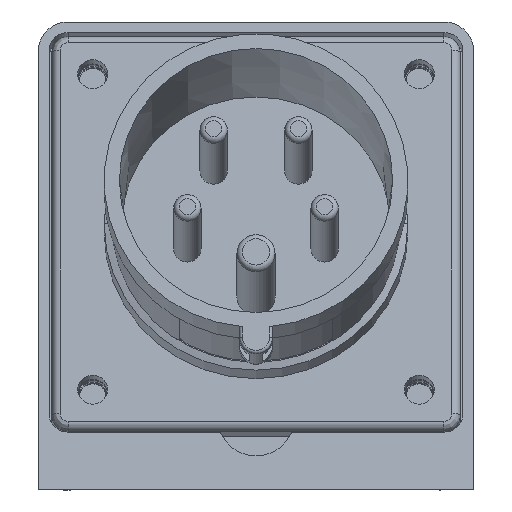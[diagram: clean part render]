
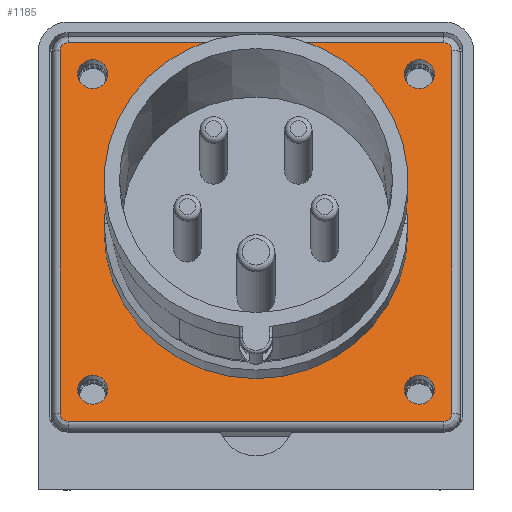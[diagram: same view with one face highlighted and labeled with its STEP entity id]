
A CAD part, front view. The second image highlights one B-rep face of the part: STEP entity #1185.
In plain terms, the highlighted planar face has unit normal (0, -0.966, 0.259).
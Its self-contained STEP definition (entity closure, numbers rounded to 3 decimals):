
#1185 = ADVANCED_FACE('',(#1186,#1256,#1276,#1296,#1316,#1336),#1356,.T.
  );
#1186 = FACE_BOUND('',#1187,.T.);
#1187 = EDGE_LOOP('',(#1188,#1198,#1207,#1215,#1224,#1232,#1241,#1249));
#1188 = ORIENTED_EDGE('',*,*,#1189,.T.);
#1189 = EDGE_CURVE('',#1190,#1192,#1194,.T.);
#1190 = VERTEX_POINT('',#1191);
#1191 = CARTESIAN_POINT('',(-36.,-27.928,80.732));
#1192 = VERTEX_POINT('',#1193);
#1193 = CARTESIAN_POINT('',(-36.,-45.787,14.084));
#1194 = LINE('',#1195,#1196);
#1195 = CARTESIAN_POINT('',(-36.,-27.928,80.732));
#1196 = VECTOR('',#1197,1.);
#1197 = DIRECTION('',(0.,-0.259,-0.966));
#1198 = ORIENTED_EDGE('',*,*,#1199,.T.);
#1199 = EDGE_CURVE('',#1192,#1200,#1202,.T.);
#1200 = VERTEX_POINT('',#1201);
#1201 = CARTESIAN_POINT('',(-34.5,-46.175,12.635));
#1202 = CIRCLE('',#1203,1.5);
#1203 = AXIS2_PLACEMENT_3D('',#1204,#1205,#1206);
#1204 = CARTESIAN_POINT('',(-34.5,-45.787,14.084));
#1205 = DIRECTION('',(0.,-0.966,0.259));
#1206 = DIRECTION('',(-1.,0.,0.));
#1207 = ORIENTED_EDGE('',*,*,#1208,.T.);
#1208 = EDGE_CURVE('',#1200,#1209,#1211,.T.);
#1209 = VERTEX_POINT('',#1210);
#1210 = CARTESIAN_POINT('',(34.5,-46.175,12.635));
#1211 = LINE('',#1212,#1213);
#1212 = CARTESIAN_POINT('',(-34.5,-46.175,12.635));
#1213 = VECTOR('',#1214,1.);
#1214 = DIRECTION('',(1.,0.,0.));
#1215 = ORIENTED_EDGE('',*,*,#1216,.T.);
#1216 = EDGE_CURVE('',#1209,#1217,#1219,.T.);
#1217 = VERTEX_POINT('',#1218);
#1218 = CARTESIAN_POINT('',(36.,-45.787,14.084));
#1219 = CIRCLE('',#1220,1.5);
#1220 = AXIS2_PLACEMENT_3D('',#1221,#1222,#1223);
#1221 = CARTESIAN_POINT('',(34.5,-45.787,14.084));
#1222 = DIRECTION('',(0.,-0.966,0.259));
#1223 = DIRECTION('',(0.,-0.259,-0.966));
#1224 = ORIENTED_EDGE('',*,*,#1225,.T.);
#1225 = EDGE_CURVE('',#1217,#1226,#1228,.T.);
#1226 = VERTEX_POINT('',#1227);
#1227 = CARTESIAN_POINT('',(36.,-27.928,80.732));
#1228 = LINE('',#1229,#1230);
#1229 = CARTESIAN_POINT('',(36.,-45.787,14.084));
#1230 = VECTOR('',#1231,1.);
#1231 = DIRECTION('',(0.,0.259,0.966));
#1232 = ORIENTED_EDGE('',*,*,#1233,.T.);
#1233 = EDGE_CURVE('',#1226,#1234,#1236,.T.);
#1234 = VERTEX_POINT('',#1235);
#1235 = CARTESIAN_POINT('',(34.5,-27.54,82.181));
#1236 = CIRCLE('',#1237,1.5);
#1237 = AXIS2_PLACEMENT_3D('',#1238,#1239,#1240);
#1238 = CARTESIAN_POINT('',(34.5,-27.928,80.732));
#1239 = DIRECTION('',(0.,-0.966,0.259));
#1240 = DIRECTION('',(1.,0.,0.));
#1241 = ORIENTED_EDGE('',*,*,#1242,.T.);
#1242 = EDGE_CURVE('',#1234,#1243,#1245,.T.);
#1243 = VERTEX_POINT('',#1244);
#1244 = CARTESIAN_POINT('',(-34.5,-27.54,82.181));
#1245 = LINE('',#1246,#1247);
#1246 = CARTESIAN_POINT('',(34.5,-27.54,82.181));
#1247 = VECTOR('',#1248,1.);
#1248 = DIRECTION('',(-1.,0.,0.));
#1249 = ORIENTED_EDGE('',*,*,#1250,.T.);
#1250 = EDGE_CURVE('',#1243,#1190,#1251,.T.);
#1251 = CIRCLE('',#1252,1.5);
#1252 = AXIS2_PLACEMENT_3D('',#1253,#1254,#1255);
#1253 = CARTESIAN_POINT('',(-34.5,-27.928,80.732));
#1254 = DIRECTION('',(0.,-0.966,0.259));
#1255 = DIRECTION('',(0.,0.259,0.966));
#1256 = FACE_BOUND('',#1257,.T.);
#1257 = EDGE_LOOP('',(#1258,#1269));
#1258 = ORIENTED_EDGE('',*,*,#1259,.F.);
#1259 = EDGE_CURVE('',#1260,#1262,#1264,.T.);
#1260 = VERTEX_POINT('',#1261);
#1261 = CARTESIAN_POINT('',(27.25,-29.093,76.386));
#1262 = VERTEX_POINT('',#1263);
#1263 = CARTESIAN_POINT('',(32.75,-29.093,76.386));
#1264 = CIRCLE('',#1265,2.75);
#1265 = AXIS2_PLACEMENT_3D('',#1266,#1267,#1268);
#1266 = CARTESIAN_POINT('',(30.,-29.093,76.386));
#1267 = DIRECTION('',(0.,-0.966,0.259));
#1268 = DIRECTION('',(-1.,0.,0.));
#1269 = ORIENTED_EDGE('',*,*,#1270,.F.);
#1270 = EDGE_CURVE('',#1262,#1260,#1271,.T.);
#1271 = CIRCLE('',#1272,2.75);
#1272 = AXIS2_PLACEMENT_3D('',#1273,#1274,#1275);
#1273 = CARTESIAN_POINT('',(30.,-29.093,76.386));
#1274 = DIRECTION('',(0.,-0.966,0.259));
#1275 = DIRECTION('',(1.,0.,0.));
#1276 = FACE_BOUND('',#1277,.T.);
#1277 = EDGE_LOOP('',(#1278,#1289));
#1278 = ORIENTED_EDGE('',*,*,#1279,.F.);
#1279 = EDGE_CURVE('',#1280,#1282,#1284,.T.);
#1280 = VERTEX_POINT('',#1281);
#1281 = CARTESIAN_POINT('',(-32.75,-29.093,76.386));
#1282 = VERTEX_POINT('',#1283);
#1283 = CARTESIAN_POINT('',(-27.25,-29.093,76.386));
#1284 = CIRCLE('',#1285,2.75);
#1285 = AXIS2_PLACEMENT_3D('',#1286,#1287,#1288);
#1286 = CARTESIAN_POINT('',(-30.,-29.093,76.386));
#1287 = DIRECTION('',(0.,-0.966,0.259));
#1288 = DIRECTION('',(-1.,0.,0.));
#1289 = ORIENTED_EDGE('',*,*,#1290,.F.);
#1290 = EDGE_CURVE('',#1282,#1280,#1291,.T.);
#1291 = CIRCLE('',#1292,2.75);
#1292 = AXIS2_PLACEMENT_3D('',#1293,#1294,#1295);
#1293 = CARTESIAN_POINT('',(-30.,-29.093,76.386));
#1294 = DIRECTION('',(0.,-0.966,0.259));
#1295 = DIRECTION('',(1.,0.,0.));
#1296 = FACE_BOUND('',#1297,.T.);
#1297 = EDGE_LOOP('',(#1298,#1309));
#1298 = ORIENTED_EDGE('',*,*,#1299,.F.);
#1299 = EDGE_CURVE('',#1300,#1302,#1304,.T.);
#1300 = VERTEX_POINT('',#1301);
#1301 = CARTESIAN_POINT('',(27.25,-44.622,18.43));
#1302 = VERTEX_POINT('',#1303);
#1303 = CARTESIAN_POINT('',(32.75,-44.622,18.43));
#1304 = CIRCLE('',#1305,2.75);
#1305 = AXIS2_PLACEMENT_3D('',#1306,#1307,#1308);
#1306 = CARTESIAN_POINT('',(30.,-44.622,18.43));
#1307 = DIRECTION('',(0.,-0.966,0.259));
#1308 = DIRECTION('',(-1.,0.,0.));
#1309 = ORIENTED_EDGE('',*,*,#1310,.F.);
#1310 = EDGE_CURVE('',#1302,#1300,#1311,.T.);
#1311 = CIRCLE('',#1312,2.75);
#1312 = AXIS2_PLACEMENT_3D('',#1313,#1314,#1315);
#1313 = CARTESIAN_POINT('',(30.,-44.622,18.43));
#1314 = DIRECTION('',(0.,-0.966,0.259));
#1315 = DIRECTION('',(1.,0.,0.));
#1316 = FACE_BOUND('',#1317,.T.);
#1317 = EDGE_LOOP('',(#1318,#1329));
#1318 = ORIENTED_EDGE('',*,*,#1319,.F.);
#1319 = EDGE_CURVE('',#1320,#1322,#1324,.T.);
#1320 = VERTEX_POINT('',#1321);
#1321 = CARTESIAN_POINT('',(-32.75,-44.622,18.43));
#1322 = VERTEX_POINT('',#1323);
#1323 = CARTESIAN_POINT('',(-27.25,-44.622,18.43));
#1324 = CIRCLE('',#1325,2.75);
#1325 = AXIS2_PLACEMENT_3D('',#1326,#1327,#1328);
#1326 = CARTESIAN_POINT('',(-30.,-44.622,18.43));
#1327 = DIRECTION('',(0.,-0.966,0.259));
#1328 = DIRECTION('',(-1.,0.,0.));
#1329 = ORIENTED_EDGE('',*,*,#1330,.F.);
#1330 = EDGE_CURVE('',#1322,#1320,#1331,.T.);
#1331 = CIRCLE('',#1332,2.75);
#1332 = AXIS2_PLACEMENT_3D('',#1333,#1334,#1335);
#1333 = CARTESIAN_POINT('',(-30.,-44.622,18.43));
#1334 = DIRECTION('',(0.,-0.966,0.259));
#1335 = DIRECTION('',(1.,0.,0.));
#1336 = FACE_BOUND('',#1337,.T.);
#1337 = EDGE_LOOP('',(#1338,#1349));
#1338 = ORIENTED_EDGE('',*,*,#1339,.F.);
#1339 = EDGE_CURVE('',#1340,#1342,#1344,.T.);
#1340 = VERTEX_POINT('',#1341);
#1341 = CARTESIAN_POINT('',(-27.9,-36.858,47.408));
#1342 = VERTEX_POINT('',#1343);
#1343 = CARTESIAN_POINT('',(27.9,-36.858,47.408));
#1344 = CIRCLE('',#1345,27.9);
#1345 = AXIS2_PLACEMENT_3D('',#1346,#1347,#1348);
#1346 = CARTESIAN_POINT('',(0.,-36.858,47.408));
#1347 = DIRECTION('',(0.,-0.966,0.259));
#1348 = DIRECTION('',(-1.,0.,0.));
#1349 = ORIENTED_EDGE('',*,*,#1350,.F.);
#1350 = EDGE_CURVE('',#1342,#1340,#1351,.T.);
#1351 = CIRCLE('',#1352,27.9);
#1352 = AXIS2_PLACEMENT_3D('',#1353,#1354,#1355);
#1353 = CARTESIAN_POINT('',(0.,-36.858,47.408));
#1354 = DIRECTION('',(0.,-0.966,0.259));
#1355 = DIRECTION('',(1.,0.,0.));
#1356 = PLANE('',#1357);
#1357 = AXIS2_PLACEMENT_3D('',#1358,#1359,#1360);
#1358 = CARTESIAN_POINT('',(0.,-36.858,47.408));
#1359 = DIRECTION('',(0.,-0.966,0.259));
#1360 = DIRECTION('',(-1.,0.,0.));
